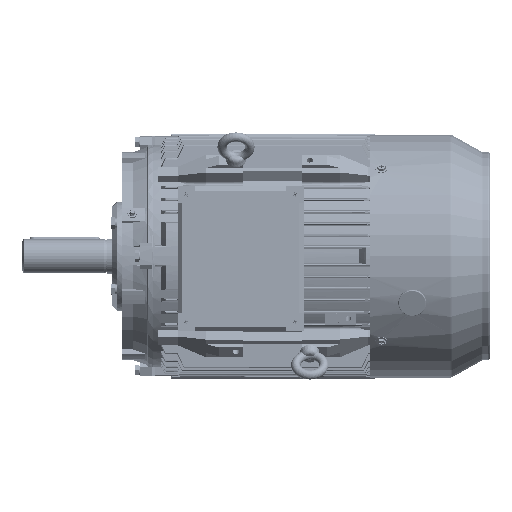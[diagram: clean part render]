
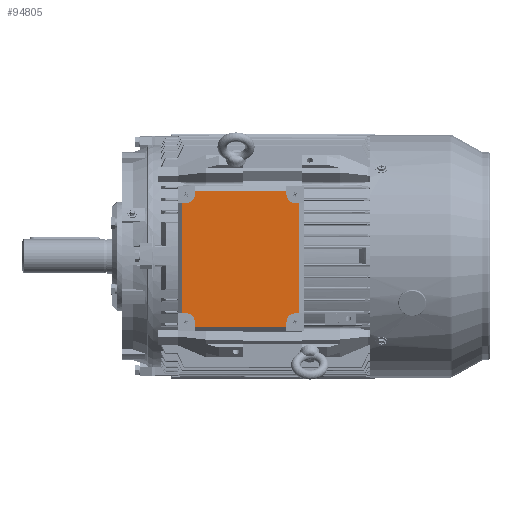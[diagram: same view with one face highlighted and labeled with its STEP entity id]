
A CAD part, top view. The second image highlights one B-rep face of the part: STEP entity #94805.
In plain terms, the highlighted planar face has unit normal (0, 0, 1).
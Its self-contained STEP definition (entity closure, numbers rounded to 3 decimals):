
#3881 = CARTESIAN_POINT ( 'NONE',  ( 100.157, -62.136, 241.65 ) ) ;
#3923 = DIRECTION ( 'NONE',  ( 0., -1., 0. ) ) ;
#4176 = DIRECTION ( 'NONE',  ( -1., 0., 0. ) ) ;
#4256 = CARTESIAN_POINT ( 'NONE',  ( -28.843, -62.136, 241.65 ) ) ;
#4290 = VERTEX_POINT ( 'NONE', #161373 ) ;
#5484 = LINE ( 'NONE', #190370, #191880 ) ;
#5543 = VECTOR ( 'NONE', #4176, 1000. ) ;
#8450 = ORIENTED_EDGE ( 'NONE', *, *, #251861, .T. ) ;
#10226 = DIRECTION ( 'NONE',  ( 0., 1., 0. ) ) ;
#10343 = CARTESIAN_POINT ( 'NONE',  ( 100.157, 101.864, 241.65 ) ) ;
#10351 = CARTESIAN_POINT ( 'NONE',  ( -28.843, 101.864, 241.65 ) ) ;
#14374 = CIRCLE ( 'NONE', #171676, 11. ) ;
#16152 = VECTOR ( 'NONE', #205088, 1000. ) ;
#22539 = VERTEX_POINT ( 'NONE', #124591 ) ;
#25850 = VERTEX_POINT ( 'NONE', #172663 ) ;
#26336 = EDGE_CURVE ( 'NONE', #104910, #83676, #79103, .T. ) ;
#30612 = EDGE_CURVE ( 'NONE', #104910, #216858, #218325, .T. ) ;
#32079 = ORIENTED_EDGE ( 'NONE', *, *, #45168, .F. ) ;
#34835 = LINE ( 'NONE', #134835, #55665 ) ;
#37601 = LINE ( 'NONE', #137612, #254261 ) ;
#44598 = CARTESIAN_POINT ( 'NONE',  ( 111.157, -51.136, 241.65 ) ) ;
#44875 = DIRECTION ( 'NONE',  ( -1., 0., 0. ) ) ;
#45168 = EDGE_CURVE ( 'NONE', #243066, #83676, #34835, .T. ) ;
#46407 = CARTESIAN_POINT ( 'NONE',  ( -17.843, 101.864, 241.65 ) ) ;
#47234 = VECTOR ( 'NONE', #226877, 1000. ) ;
#47236 = CARTESIAN_POINT ( 'NONE',  ( -39.843, 90.864, 241.65 ) ) ;
#47372 = DIRECTION ( 'NONE',  ( 0., 1., 0. ) ) ;
#48050 = LINE ( 'NONE', #212365, #179811 ) ;
#50702 = VERTEX_POINT ( 'NONE', #245206 ) ;
#51120 = EDGE_CURVE ( 'NONE', #218957, #25850, #265638, .T. ) ;
#51571 = ORIENTED_EDGE ( 'NONE', *, *, #26336, .T. ) ;
#51874 = VERTEX_POINT ( 'NONE', #125188 ) ;
#55665 = VECTOR ( 'NONE', #218312, 1000. ) ;
#56580 = PLANE ( 'NONE',  #246526 ) ;
#57422 = ORIENTED_EDGE ( 'NONE', *, *, #30612, .F. ) ;
#58561 = CIRCLE ( 'NONE', #250842, 11. ) ;
#65909 = DIRECTION ( 'NONE',  ( 0., 1., 0. ) ) ;
#67189 = DIRECTION ( 'NONE',  ( 0., 0., 1. ) ) ;
#71807 = EDGE_CURVE ( 'NONE', #243564, #243066, #14374, .T. ) ;
#72106 = EDGE_CURVE ( 'NONE', #51874, #4290, #108202, .T. ) ;
#74153 = EDGE_CURVE ( 'NONE', #216858, #51874, #155067, .T. ) ;
#77767 = CARTESIAN_POINT ( 'NONE',  ( 100.157, -68.136, 241.65 ) ) ;
#79103 = LINE ( 'NONE', #77767, #16152 ) ;
#79595 = CARTESIAN_POINT ( 'NONE',  ( 111.157, -62.136, 241.65 ) ) ;
#80870 = ORIENTED_EDGE ( 'NONE', *, *, #155751, .F. ) ;
#83676 = VERTEX_POINT ( 'NONE', #233367 ) ;
#90639 = EDGE_CURVE ( 'NONE', #22539, #205970, #48050, .T. ) ;
#94805 = ADVANCED_FACE ( 'NONE', ( #224923 ), #56580, .T. ) ;
#96258 = ORIENTED_EDGE ( 'NONE', *, *, #260446, .F. ) ;
#96825 = CARTESIAN_POINT ( 'NONE',  ( -17.843, -62.136, 241.65 ) ) ;
#102278 = LINE ( 'NONE', #222799, #47234 ) ;
#104910 = VERTEX_POINT ( 'NONE', #234526 ) ;
#107869 = CARTESIAN_POINT ( 'NONE',  ( 122.157, -51.136, 241.65 ) ) ;
#108202 = LINE ( 'NONE', #191722, #5543 ) ;
#111580 = LINE ( 'NONE', #47236, #231409 ) ;
#112575 = EDGE_CURVE ( 'NONE', #173486, #218957, #235684, .T. ) ;
#114723 = EDGE_CURVE ( 'NONE', #25850, #205970, #37601, .T. ) ;
#117886 = VECTOR ( 'NONE', #194606, 1000. ) ;
#121439 = ORIENTED_EDGE ( 'NONE', *, *, #71807, .F. ) ;
#124591 = CARTESIAN_POINT ( 'NONE',  ( 116.157, -51.136, 241.65 ) ) ;
#125188 = CARTESIAN_POINT ( 'NONE',  ( -28.843, -51.136, 241.65 ) ) ;
#127168 = DIRECTION ( 'NONE',  ( 0., 0., 1. ) ) ;
#128696 = VERTEX_POINT ( 'NONE', #147198 ) ;
#131451 = ORIENTED_EDGE ( 'NONE', *, *, #141323, .F. ) ;
#134835 = CARTESIAN_POINT ( 'NONE',  ( 100.157, -74.136, 241.65 ) ) ;
#135207 = ORIENTED_EDGE ( 'NONE', *, *, #114723, .F. ) ;
#137541 = CARTESIAN_POINT ( 'NONE',  ( -17.843, -74.136, 241.65 ) ) ;
#137612 = CARTESIAN_POINT ( 'NONE',  ( 122.157, 90.864, 241.65 ) ) ;
#141323 = EDGE_CURVE ( 'NONE', #199278, #211230, #102278, .T. ) ;
#147198 = CARTESIAN_POINT ( 'NONE',  ( -33.843, 90.864, 241.65 ) ) ;
#152785 = CARTESIAN_POINT ( 'NONE',  ( 100.157, 106.864, 241.65 ) ) ;
#153381 = ORIENTED_EDGE ( 'NONE', *, *, #192948, .F. ) ;
#155067 = CIRCLE ( 'NONE', #251204, 11. ) ;
#155751 = EDGE_CURVE ( 'NONE', #50702, #199278, #58561, .T. ) ;
#161373 = CARTESIAN_POINT ( 'NONE',  ( -33.843, -51.136, 241.65 ) ) ;
#163485 = ORIENTED_EDGE ( 'NONE', *, *, #165145, .T. ) ;
#165145 = EDGE_CURVE ( 'NONE', #173486, #211230, #167091, .T. ) ;
#167091 = LINE ( 'NONE', #168426, #218723 ) ;
#168426 = CARTESIAN_POINT ( 'NONE',  ( -17.843, 106.864, 241.65 ) ) ;
#170847 = CARTESIAN_POINT ( 'NONE',  ( 116.157, 90.864, 241.65 ) ) ;
#171676 = AXIS2_PLACEMENT_3D ( 'NONE', #79595, #243901, #267158 ) ;
#172663 = CARTESIAN_POINT ( 'NONE',  ( 111.157, 90.864, 241.65 ) ) ;
#173205 = DIRECTION ( 'NONE',  ( 1., 0., 0. ) ) ;
#173486 = VERTEX_POINT ( 'NONE', #152785 ) ;
#179811 = VECTOR ( 'NONE', #65909, 1000. ) ;
#185219 = DIRECTION ( 'NONE',  ( 0., 0., 1. ) ) ;
#186399 = VECTOR ( 'NONE', #10226, 1000. ) ;
#188052 = ORIENTED_EDGE ( 'NONE', *, *, #90639, .T. ) ;
#190370 = CARTESIAN_POINT ( 'NONE',  ( -33.843, -51.136, 241.65 ) ) ;
#191722 = CARTESIAN_POINT ( 'NONE',  ( -39.843, -51.136, 241.65 ) ) ;
#191880 = VECTOR ( 'NONE', #250641, 1000. ) ;
#192948 = EDGE_CURVE ( 'NONE', #128696, #50702, #111580, .T. ) ;
#194606 = DIRECTION ( 'NONE',  ( 0., -1., 0. ) ) ;
#199278 = VERTEX_POINT ( 'NONE', #46407 ) ;
#199531 = EDGE_LOOP ( 'NONE', ( #96258, #188052, #135207, #201096, #240134, #163485, #131451, #80870, #153381, #8450, #214522, #247290, #57422, #51571, #32079, #121439 ) ) ;
#200630 = DIRECTION ( 'NONE',  ( 1., 0., 0. ) ) ;
#201096 = ORIENTED_EDGE ( 'NONE', *, *, #51120, .F. ) ;
#205088 = DIRECTION ( 'NONE',  ( 1., 0., 0. ) ) ;
#205970 = VERTEX_POINT ( 'NONE', #170847 ) ;
#208169 = DIRECTION ( 'NONE',  ( -1., 0., 0. ) ) ;
#211230 = VERTEX_POINT ( 'NONE', #212014 ) ;
#212014 = CARTESIAN_POINT ( 'NONE',  ( -17.843, 106.864, 241.65 ) ) ;
#212365 = CARTESIAN_POINT ( 'NONE',  ( 116.157, 90.864, 241.65 ) ) ;
#214522 = ORIENTED_EDGE ( 'NONE', *, *, #72106, .F. ) ;
#215098 = CARTESIAN_POINT ( 'NONE',  ( 100.157, 112.864, 241.65 ) ) ;
#216858 = VERTEX_POINT ( 'NONE', #96825 ) ;
#218312 = DIRECTION ( 'NONE',  ( 0., -1., 0. ) ) ;
#218325 = LINE ( 'NONE', #137541, #186399 ) ;
#218723 = VECTOR ( 'NONE', #208169, 1000. ) ;
#218957 = VERTEX_POINT ( 'NONE', #10343 ) ;
#222799 = CARTESIAN_POINT ( 'NONE',  ( -17.843, 112.864, 241.65 ) ) ;
#224923 = FACE_OUTER_BOUND ( 'NONE', #199531, .T. ) ;
#226877 = DIRECTION ( 'NONE',  ( 0., 1., 0. ) ) ;
#229868 = CARTESIAN_POINT ( 'NONE',  ( 111.157, 101.864, 241.65 ) ) ;
#231121 = LINE ( 'NONE', #107869, #255084 ) ;
#231409 = VECTOR ( 'NONE', #173205, 1000. ) ;
#233367 = CARTESIAN_POINT ( 'NONE',  ( 100.157, -68.136, 241.65 ) ) ;
#234218 = DIRECTION ( 'NONE',  ( 0., -1., 0. ) ) ;
#234526 = CARTESIAN_POINT ( 'NONE',  ( -17.843, -68.136, 241.65 ) ) ;
#235684 = LINE ( 'NONE', #215098, #117886 ) ;
#240134 = ORIENTED_EDGE ( 'NONE', *, *, #112575, .F. ) ;
#243066 = VERTEX_POINT ( 'NONE', #3881 ) ;
#243564 = VERTEX_POINT ( 'NONE', #44598 ) ;
#243901 = DIRECTION ( 'NONE',  ( 0., 0., 1. ) ) ;
#244128 = CARTESIAN_POINT ( 'NONE',  ( -39.843, 112.864, 241.65 ) ) ;
#245206 = CARTESIAN_POINT ( 'NONE',  ( -28.843, 90.864, 241.65 ) ) ;
#246526 = AXIS2_PLACEMENT_3D ( 'NONE', #244128, #185219, #246809 ) ;
#246809 = DIRECTION ( 'NONE',  ( 0., -1., 0. ) ) ;
#247290 = ORIENTED_EDGE ( 'NONE', *, *, #74153, .F. ) ;
#250641 = DIRECTION ( 'NONE',  ( 0., -1., 0. ) ) ;
#250842 = AXIS2_PLACEMENT_3D ( 'NONE', #10351, #258183, #47372 ) ;
#251204 = AXIS2_PLACEMENT_3D ( 'NONE', #4256, #67189, #234218 ) ;
#251861 = EDGE_CURVE ( 'NONE', #128696, #4290, #5484, .T. ) ;
#252517 = AXIS2_PLACEMENT_3D ( 'NONE', #229868, #127168, #3923 ) ;
#254261 = VECTOR ( 'NONE', #200630, 1000. ) ;
#255084 = VECTOR ( 'NONE', #44875, 1000. ) ;
#258183 = DIRECTION ( 'NONE',  ( 0., 0., 1. ) ) ;
#260446 = EDGE_CURVE ( 'NONE', #22539, #243564, #231121, .T. ) ;
#265638 = CIRCLE ( 'NONE', #252517, 11. ) ;
#267158 = DIRECTION ( 'NONE',  ( 0., 1., 0. ) ) ;
